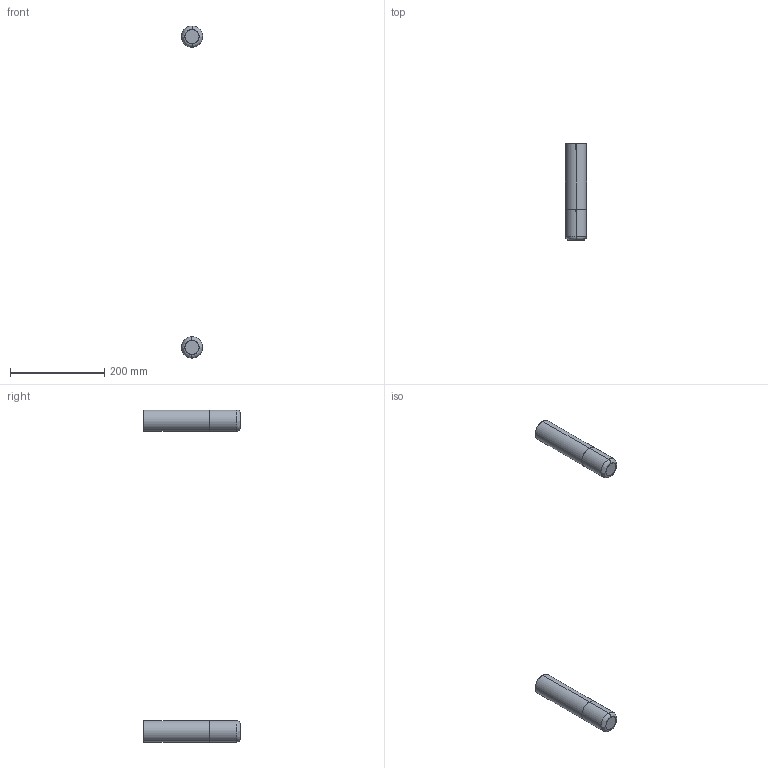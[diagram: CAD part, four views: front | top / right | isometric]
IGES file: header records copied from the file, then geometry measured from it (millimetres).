
Start section: SolidWorks IGES file using analytic representation for surfaces
Global section: file name: \\Logicserver\datos\01-VICCARBE\PRODUCTOS\53-SISTEMA\04-MODELADOS (PLANOS)\WEB\viccarbe-sistema-3D\IGS\Patas combinadas.IGS; native system: SolidWorks 2013; preprocessor: SolidWorks 2013; author: bdisenyo; date: 170125.114253; units: millimetre
Bounding box: 45 x 205 x 705 mm (x, y, z)
Surface area: 69945.5 mm2 (no closed solid volume)
Topology: 0 solids, 0 shells, 26 faces, 704 edges, 704 vertices
Faces by surface type: bspline 14, revolution 12
